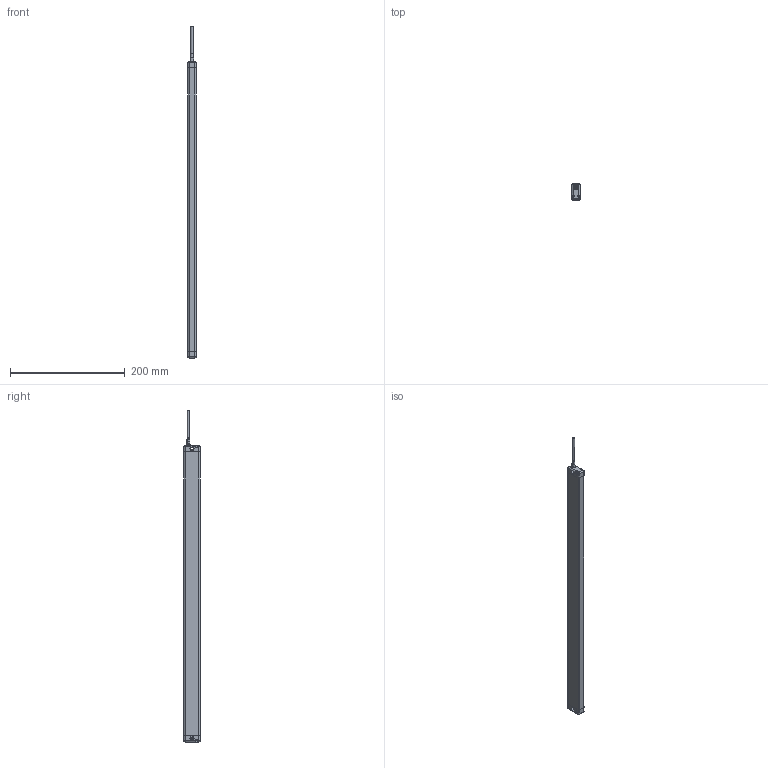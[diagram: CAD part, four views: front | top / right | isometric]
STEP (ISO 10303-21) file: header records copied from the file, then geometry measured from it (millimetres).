
FILE_DESCRIPTION (( 'STEP AP203' ), '1' );
FILE_NAME ('PG3.STEP', '2018-09-04T09:20:58', ( 'sdl' ), ( '' ), 'SwSTEP 2.0', 'SolidWorks 2010', '' );
FILE_SCHEMA (( 'CONFIG_CONTROL_DESIGN' ));
Length unit declared in the file: millimetre
Products named in the file (6): Cross recessed small pan head screws GB_GB_CROSS_SCREWS_TYPE3 M2X3-3-S; 薦嫖え; PG3-傷裔; PG3-傷裔2; 臏倰第; PG3
Assembly tree (10 placements, depth 2):
  PG3
    Cross recessed small pan head screws GB_GB_CROSS_SCREWS_TYPE3 M2X3-3-S  x6
    臏倰第
    PG3-傷裔2
    薦嫖え
    PG3-傷裔
Bounding box: 14 x 28 x 578 mm (x, y, z)
Volume: 196257.8 mm3; surface area: 56297.4 mm2
Topology: 11 solids, 11 shells, 498 faces, 1138 edges, 679 vertices
Faces by surface type: plane 183, cylinder 161, cone 139, sphere 14, torus 1
Full cylindrical faces by diameter (mm): 2 x72, 2.5 x6, 3.5 x6, 3.8 x1, 4.5 x2
Entity records: 7338 total; most frequent: CARTESIAN_POINT 1725, DIRECTION 1030, ORIENTED_EDGE 918, EDGE_CURVE 459, AXIS2_PLACEMENT_3D 390, VERTEX_POINT 317, EDGE_LOOP 298, LINE 250
